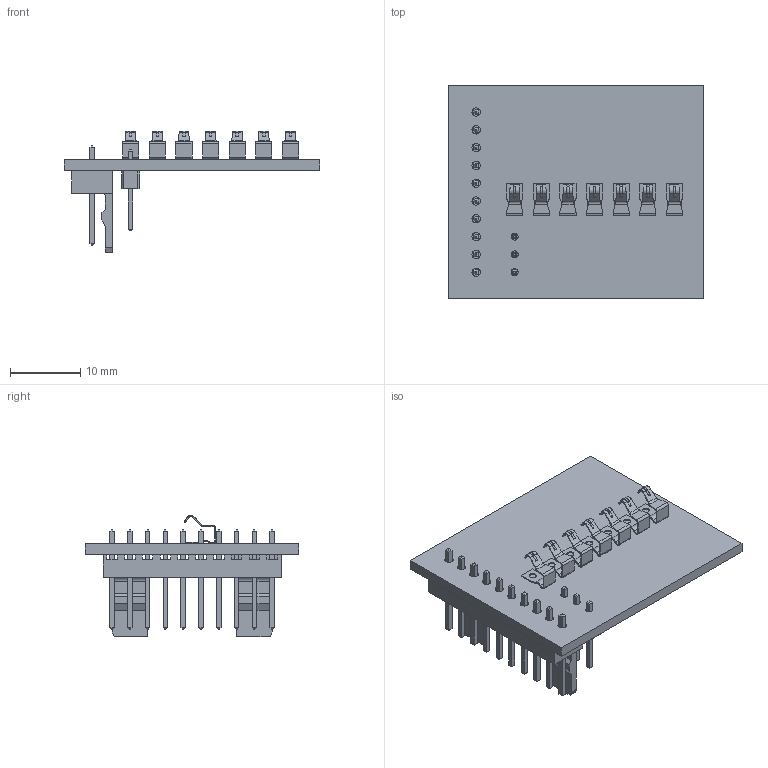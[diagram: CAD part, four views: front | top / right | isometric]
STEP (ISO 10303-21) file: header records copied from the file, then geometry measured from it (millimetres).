
FILE_DESCRIPTION(('KiCad electronic assembly'),'2;1');
FILE_NAME('Slip Ring Static Contacts PCB V2 STEP1.step', '2026-02-23T05:04:06',('Pcbnew'),('Kicad'), 'Open CASCADE STEP processor 7.9','KiCad to STEP converter','Unknown' );
FILE_SCHEMA(('AUTOMOTIVE_DESIGN { 1 0 10303 214 1 1 1 1 }'));
Length unit declared in the file: millimetre
Products named in the file (5): Slip Ring Static Contacts PCB V2 STEP1 1; S7171-45R; Molex_KK-254_AE-6410-10A_1x10_P2.54mm_Vertical; PinHeader_1x03_P2.54mm_Vertical; Slip Ring Stactic Contacts V2_PCB
Assembly tree (10 placements, depth 2):
  Slip Ring Static Contacts PCB V2 STEP1 1
    S7171-45R  x7
    Molex_KK-254_AE-6410-10A_1x10_P2.54mm_Vertical
    PinHeader_1x03_P2.54mm_Vertical
    Slip Ring Stactic Contacts V2_PCB
Bounding box: 36.5 x 30.5 x 17.38 mm (x, y, z)
Volume: 2281.1 mm3; surface area: 4134.4 mm2
Topology: 17 solids, 17 shells, 1077 faces, 2569 edges, 1552 vertices
Faces by surface type: plane 712, cylinder 260, bspline 56, torus 35, cone 14
Full cylindrical faces by diameter (mm): 1 x3, 1.19 x10
Entity records: 16670 total; most frequent: CARTESIAN_POINT 2749, ORIENTED_EDGE 2330, DIRECTION 2217, EDGE_CURVE 1165, LINE 1049, VECTOR 1049, VERTEX_POINT 724, AXIS2_PLACEMENT_3D 584
